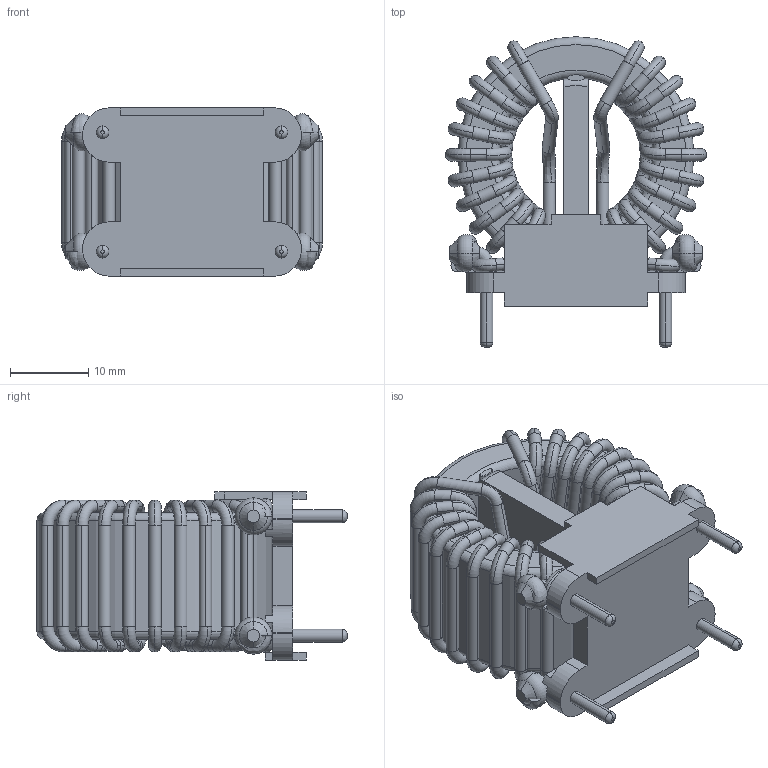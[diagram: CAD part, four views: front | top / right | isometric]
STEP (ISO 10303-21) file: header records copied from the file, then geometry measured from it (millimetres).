
FILE_DESCRIPTION (( 'STEP AP203' ), '1' );
FILE_NAME ('PM-16-501U-20A .STEP', '2021-01-22T14:43:19', ( '' ), ( '' ), 'SwSTEP 2.0', 'SolidWorks 2015', '' );
FILE_SCHEMA (( 'CONFIG_CONTROL_DESIGN' ));
Length unit declared in the file: millimetre
Products named in the file (6): SPACER; BASE; WINDING; EPOXY; CORE; PM-16-501U-20A 
Assembly tree (5 placements, depth 2):
  PM-16-501U-20A 
    BASE
    CORE
    SPACER
    WINDING
    EPOXY
Bounding box: 33.35 x 39.64 x 21.5 mm (x, y, z)
Volume: 11497.8 mm3; surface area: 11915.5 mm2
Topology: 13 solids, 13 shells, 628 faces, 1702 edges, 1100 vertices
Faces by surface type: cylinder 278, torus 218, plane 86, bspline 30, cone 16
Entity records: 24960 total; most frequent: CARTESIAN_POINT 7764, DIRECTION 3974, ORIENTED_EDGE 3404, AXIS2_PLACEMENT_3D 1766, EDGE_CURVE 1702, CIRCLE 1160, VERTEX_POINT 1100, EDGE_LOOP 638
